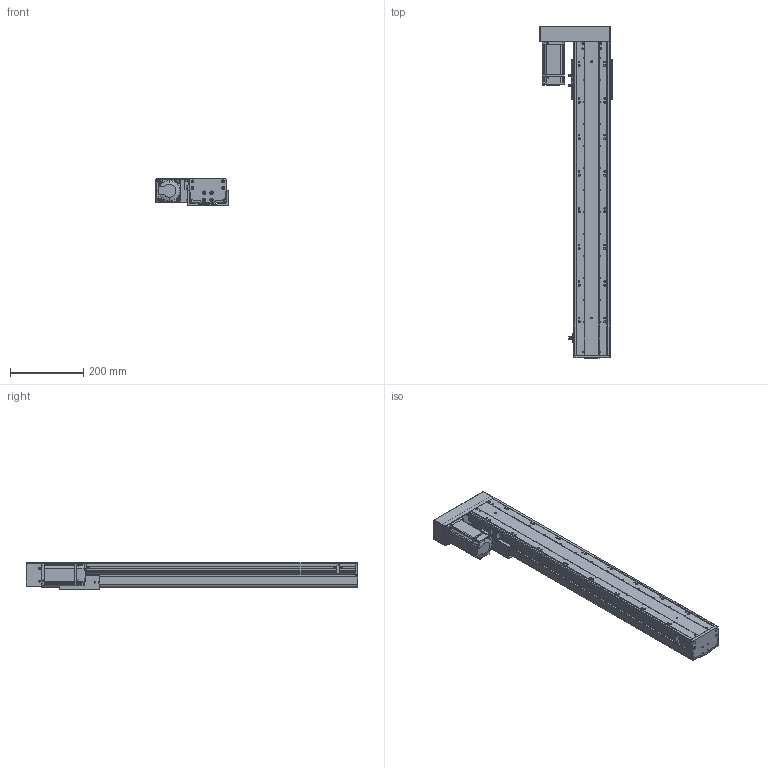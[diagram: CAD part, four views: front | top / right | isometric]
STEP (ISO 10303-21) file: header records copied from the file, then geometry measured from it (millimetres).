
FILE_DESCRIPTION (( 'STEP AP203' ), '1' );
FILE_NAME ('RY100FBS-L1610-300-LK(15双轨）.SLDASM_650.step', '2021-02-23T01:49:26', ( '盈信电脑' ), ( '东莞市道滘镇水果街19号' ), 'SwSTEP 2.0', 'SolidWorks 2012', '' );
FILE_SCHEMA (( 'CONFIG_CONTROL_DESIGN' ));
Products named in the file (14): RY100FBS-L1610-300-LK(15双轨）.SLDASM_650; RY100FBS-酘衵殏萇儂欶; RY100FBS-酘衵殏萇儂啣; 侂狟400W侜督萇儂; RY100FBS-后盖板(15双轨）; 15; 滅袉蝶18-15; RY100FBS-嫖萇覜茼え; RY100FBS-铝滑块（16丝杆）; 覜茼ん672; RY100FBS-300蛌殏奻裔啣-LK_650; 滅袉蝶18-24; RY100FBS-转折支撑座（15双轨）; RY100FBS-300蛌殏菁釱-LK_650
Assembly tree (15 placements, depth 3):
  RY100FBS-L1610-300-LK(15双轨）.SLDASM_650
    RY100FBS-300蛌殏菁釱-LK_650
    RY100FBS-300蛌殏奻裔啣-LK_650
    RY100FBS-转折支撑座（15双轨）
    滅袉蝶18-24
    滅袉蝶18-15
    RY100FBS-铝滑块（16丝杆）
    覜茼ん672  x3
    RY100FBS-嫖萇覜茼え
    侂狟400W侜督萇儂
      15
    RY100FBS-后盖板(15双轨）
    RY100FBS-酘衵殏萇儂啣
    RY100FBS-酘衵殏萇儂欶
Bounding box: 198.75 x 907 x 74 mm (x, y, z)
Volume: 2489544.2 mm3; surface area: 912270.3 mm2
Topology: 14 solids, 14 shells, 1633 faces, 4628 edges, 3002 vertices
Faces by surface type: cylinder 785, plane 696, cone 126, bspline 26
Entity records: 51515 total; most frequent: CARTESIAN_POINT 10930, DIRECTION 8275, ORIENTED_EDGE 8132, EDGE_CURVE 4066, AXIS2_PLACEMENT_3D 2991, VERTEX_POINT 2682, VECTOR 2293, LINE 2293
